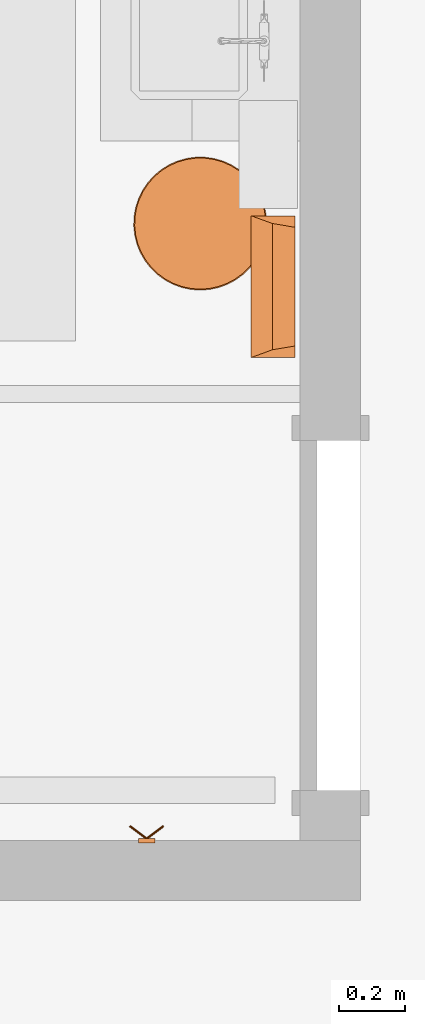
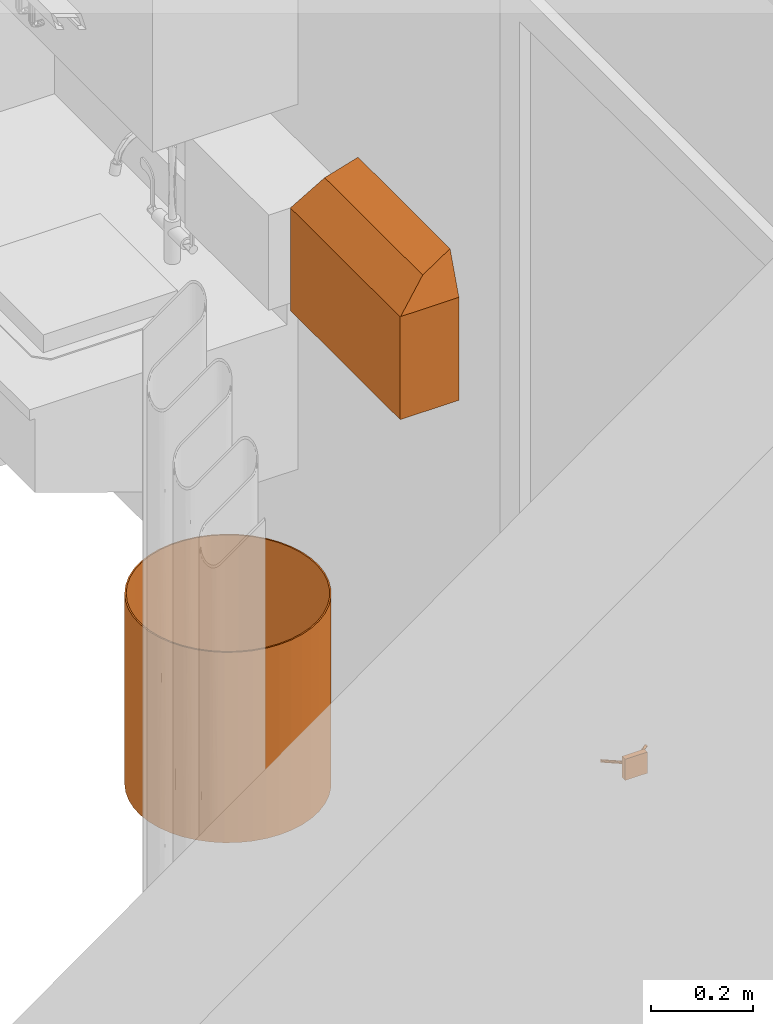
# One storey, part 111 of 142: 3 proxies.
"""IFC2X3 building model written with IfcOpenShell, lengths in feet."""

import ifcopenshell
import ifcopenshell.guid

model = None  # the IFC model being written
_history = None  # IfcOwnerHistory: only IFC2X3 demands one
_inside = {}  # id of a spatial element -> (the spatial element, [elements in it])
_under = {}  # id of a project, library or spatial element -> (it, [spatial elements below it])
_declared = {}  # id of a project -> (the project, [libraries it declares])
_typed = {}  # id of a type object -> (the type object, [elements of that type])
_made_of = {}  # id of a material, layer set ... -> (it, [elements and type objects made of it])


def new_model(schema):
    """Start an empty IFC model of exactly this schema.

    Asked for "IFC4X3", IfcOpenShell would pick the latest addendum, in which some entities
    have other attributes; the version numbers below select the first issue.
    IFC2X3 requires an IfcOwnerHistory on every rooted entity: one is made here for all.
    """
    global model, _history
    if schema == "IFC4X3":
        model = ifcopenshell.file(schema_version=(4, 3, 0, 0))
    else:
        model = ifcopenshell.file(schema=schema)
    _inside.clear()
    _under.clear()
    _declared.clear()
    _typed.clear()
    _made_of.clear()
    _history = None
    if model.schema == "IFC2X3":
        org = make("IfcOrganization", Name="unknown")
        user = make(
            "IfcPersonAndOrganization",
            ThePerson=make("IfcPerson", FamilyName="unknown"),
            TheOrganization=org,
        )
        app = make(
            "IfcApplication",
            ApplicationDeveloper=org,
            Version="unknown",
            ApplicationFullName="unknown",
            ApplicationIdentifier="unknown",
        )
        _history = make(
            "IfcOwnerHistory",
            OwningUser=user,
            OwningApplication=app,
            ChangeAction="ADDED",
            CreationDate=0,
        )
    return model


def make(cls, **values):
    """One entity of the class cls with the attributes given. An attribute that is None is left unset."""
    return model.create_entity(
        cls, **{name: value for name, value in values.items() if value is not None}
    )


def entity(cls, *values):
    """Any entity or typed value of the class cls, its attributes in the order of the schema. None: left unset."""
    e = model.create_entity(cls)
    for i, value in enumerate(values):
        if value is not None:
            e[i] = value
    return e


def rooted(cls, **values):
    """An entity with a GlobalId (a new one), such as an element, a storey or a relation."""
    return make(cls, GlobalId=ifcopenshell.guid.new(), OwnerHistory=_history, **values)


def si_unit(unit_type, name, prefix=None):
    """IfcSIUnit, for example si_unit("LENGTHUNIT", "METRE", prefix="MILLI")."""
    return make("IfcSIUnit", UnitType=unit_type, Prefix=prefix, Name=name)


def converted_unit(unit_type, name, factor, base, dimensions=None, offset=None):
    """IfcConversionBasedUnit, such as the inch: factor (a typed value) times the base unit."""
    return make(
        "IfcConversionBasedUnit"
        if offset is None
        else "IfcConversionBasedUnitWithOffset",
        ConversionOffset=offset,
        Dimensions=None
        if dimensions is None
        else entity("IfcDimensionalExponents", *dimensions),
        UnitType=unit_type,
        Name=name,
        ConversionFactor=make(
            "IfcMeasureWithUnit", ValueComponent=factor, UnitComponent=base
        ),
    )


def derived_unit(unit_type, elements):
    """IfcDerivedUnit: a product of units, each with its exponent."""
    return make(
        "IfcDerivedUnit",
        Elements=[
            make("IfcDerivedUnitElement", Unit=unit, Exponent=power)
            for unit, power in elements
        ],
        UnitType=unit_type,
    )


def assignment(units):
    """IfcUnitAssignment: the units of a project."""
    return None if units is None else make("IfcUnitAssignment", Units=units)


def point(xyz):
    """IfcCartesianPoint."""
    return None if xyz is None else make("IfcCartesianPoint", Coordinates=xyz)


def direction(xyz):
    """IfcDirection."""
    return None if xyz is None else make("IfcDirection", DirectionRatios=xyz)


def frame(location, z_axis=None, x_axis=None):
    """IfcAxis2Placement3D, a coordinate frame: its origin and axes. An axis left out is left unset."""
    return make(
        "IfcAxis2Placement3D",
        Location=point(location),
        Axis=direction(z_axis),
        RefDirection=direction(x_axis),
    )


def frame_2d(location, x_axis=None):
    """IfcAxis2Placement2D, a coordinate frame in the plane: its origin and x axis."""
    return make(
        "IfcAxis2Placement2D", Location=point(location), RefDirection=direction(x_axis)
    )


def origin():
    """The frame at (0, 0, 0) with its axes left unset."""
    return frame((0.0, 0.0, 0.0))


def origin_2d_with_axis():
    """The frame at (0, 0) in the plane with the x axis (1, 0) written out."""
    return frame_2d((0.0, 0.0), x_axis=(1.0, 0.0))


def place(relative_to, where):
    """IfcLocalPlacement: puts the frame where relative to a parent placement (None: the world)."""
    return make(
        "IfcLocalPlacement", PlacementRelTo=relative_to, RelativePlacement=where
    )


def context(
    kind, dimensions, precision=None, world=None, true_north=None, identifier=None
):
    """IfcGeometricRepresentationContext, for example the 3D "Model" context."""
    return make(
        "IfcGeometricRepresentationContext",
        ContextIdentifier=identifier,
        ContextType=kind,
        CoordinateSpaceDimension=dimensions,
        Precision=precision,
        WorldCoordinateSystem=world,
        TrueNorth=true_north,
    )


def subcontext(parent, identifier, kind, view, scale=None):
    """IfcGeometricRepresentationSubContext, for example "Body" below "Model"."""
    return make(
        "IfcGeometricRepresentationSubContext",
        ContextIdentifier=identifier,
        ContextType=kind,
        ParentContext=parent,
        TargetScale=scale,
        TargetView=view,
    )


def project(units=None, contexts=None):
    """IfcProject with its units and contexts."""
    return rooted(
        "IfcProject",
        Name="project",
        RepresentationContexts=contexts,
        UnitsInContext=assignment(units),
    )


def spatial(cls, under=None, at=None, **own):
    """A site, building, storey or space (cls), placed at a placement, below another one or the project."""
    s = rooted(cls, ObjectPlacement=at, **own)
    if under is not None:
        _under.setdefault(under.id(), (under, []))[1].append(s)
    return s


def profile(cls, at=None, kind="AREA", **sizes):
    """A parametric profile (cls). Its sizes go by their IFC names, for example OverallWidth=200.0."""
    return make(cls, ProfileType=kind, Position=at, **sizes)


def rectangle(**sizes):
    """IfcRectangleProfileDef."""
    return profile("IfcRectangleProfileDef", **sizes)


def circle(**sizes):
    """IfcCircleProfileDef."""
    return profile("IfcCircleProfileDef", **sizes)


def hollow_circle(**sizes):
    """IfcCircleHollowProfileDef."""
    return profile("IfcCircleHollowProfileDef", **sizes)


def extrude(swept, where, along, depth):
    """IfcExtrudedAreaSolid: the profile swept, set in the frame where, extruded along a direction by depth."""
    return make(
        "IfcExtrudedAreaSolid",
        SweptArea=swept,
        Position=where,
        ExtrudedDirection=direction(along),
        Depth=depth,
    )


def faces_of(points, faces, orient=None, outer=None):
    """IfcFace entities. A face is a list of loops; a loop is a list of indices into points, from 0.

    orient and outer hold one flag for each loop. By default every Orientation is true, the
    first loop of a face is its IfcFaceOuterBound and the others are IfcFaceBound.
    """
    made = []
    for i, loops in enumerate(faces):
        bounds = []
        for j, loop in enumerate(loops):
            is_outer = j == 0 if outer is None else outer[i][j]
            bounds.append(
                make(
                    "IfcFaceOuterBound" if is_outer else "IfcFaceBound",
                    Bound=make("IfcPolyLoop", Polygon=[points[k] for k in loop]),
                    Orientation=True if orient is None else orient[i][j],
                )
            )
        made.append(make("IfcFace", Bounds=bounds))
    return made


def faceted_brep(points, faces, orient=None, outer=None, voids=None):
    """IfcFacetedBrep: a solid bounded by flat faces; with voids (closed shells), ...WithVoids."""
    shared = [point(p) for p in points]
    hull = make("IfcClosedShell", CfsFaces=faces_of(shared, faces, orient, outer))
    if voids is None:
        return make("IfcFacetedBrep", Outer=hull)
    return make(
        "IfcFacetedBrepWithVoids",
        Outer=hull,
        Voids=[
            make(cls, CfsFaces=faces_of(shared, fs, o, b)) for cls, fs, o, b in voids
        ],
    )


def shape(context_of_items, identifier, shape_type, items):
    """IfcShapeRepresentation: the items that make up one representation, for example the "Body"."""
    return make(
        "IfcShapeRepresentation",
        ContextOfItems=context_of_items,
        RepresentationIdentifier=identifier,
        RepresentationType=shape_type,
        Items=items,
    )


def source(mapping_origin, context_of_items, identifier, shape_type, items):
    """IfcRepresentationMap: a shape defined once, which mapped items show again and again."""
    return make(
        "IfcRepresentationMap",
        MappingOrigin=mapping_origin,
        MappedRepresentation=shape(context_of_items, identifier, shape_type, items),
    )


def transform(
    local_origin,
    x_axis=None,
    y_axis=None,
    z_axis=None,
    scale=None,
    scale2=None,
    scale3=None,
    uniform=True,
):
    """IfcCartesianTransformationOperator3D, or its non-uniform kind. x_axis, y_axis, z_axis: its Axis1, 2, 3."""
    if uniform:
        return make(
            "IfcCartesianTransformationOperator3D",
            Axis1=direction(x_axis),
            Axis2=direction(y_axis),
            LocalOrigin=point(local_origin),
            Scale=scale,
            Axis3=direction(z_axis),
        )
    return make(
        "IfcCartesianTransformationOperator3DnonUniform",
        Axis1=direction(x_axis),
        Axis2=direction(y_axis),
        LocalOrigin=point(local_origin),
        Scale=scale,
        Axis3=direction(z_axis),
        Scale2=scale2,
        Scale3=scale3,
    )


def mapped(mapping_source, mapping_target):
    """IfcMappedItem: shows the shape of a source again, moved by a transform."""
    return make(
        "IfcMappedItem", MappingSource=mapping_source, MappingTarget=mapping_target
    )


def made_of(thing, what):
    """Note that an element or type object is made of a material, layer set ...; save() writes the relation."""
    if what is not None:
        _made_of.setdefault(what.id(), (what, []))[1].append(thing)
    return thing


def type_object(cls, material=None, **own):
    """A type object (cls), such as IfcWallType, which elements share."""
    return made_of(rooted(cls, **own), material)


def type_shapes(of_type, sources):
    """Give a type object the sources (RepresentationMaps) that its elements show as mapped items."""
    of_type.RepresentationMaps = sources


def element(
    cls,
    number,
    at=None,
    inside=None,
    cuts=None,
    type_object=None,
    material=None,
    context=None,
    identifier="Body",
    shape_type=None,
    held_by="IfcProductDefinitionShape",
    body=None,
    shapes=None,
    **own,
):
    """One element of the class cls, such as IfcWall. Its Tag is "e" and its number.

    at: its placement. inside: the storey or other place that contains it. cuts: it is an
    opening in that element (IfcRelVoidsElement). A single representation is given by context,
    identifier, shape_type and body (its items); several are given by shapes. held_by: the class
    of the entity that holds the representations. save() writes the other relations.
    """
    e = rooted(cls, Tag="e%d" % number, ObjectPlacement=at, **own)
    if body is not None:
        shapes = [shape(context, identifier, shape_type, body)]
    if shapes is not None:
        e.Representation = make(held_by, Representations=shapes)
    if inside is not None:
        _inside.setdefault(inside.id(), (inside, []))[1].append(e)
    if cuts is not None:
        rooted(
            "IfcRelVoidsElement", RelatingBuildingElement=cuts, RelatedOpeningElement=e
        )
    if type_object is not None:
        _typed.setdefault(type_object.id(), (type_object, []))[1].append(e)
    return made_of(e, material)


def aggregate(whole, parts):
    """IfcRelAggregates: a whole, such as a stair, and the parts it consists of."""
    return rooted("IfcRelAggregates", RelatingObject=whole, RelatedObjects=parts)


def save(model, path):
    """Write the relations noted so far, then the file.

    IfcRelAggregates (storeys below a building ...), IfcRelContainedInSpatialStructure (elements
    in a storey), IfcRelDefinesByType, IfcRelAssociatesMaterial and IfcRelDeclares: one each for
    every whole, place, type object, material and project.
    """
    for whole, parts in _under.values():
        aggregate(whole, parts)
    for where, things in _inside.values():
        rooted(
            "IfcRelContainedInSpatialStructure",
            RelatedElements=things,
            RelatingStructure=where,
        )
    for kind, things in _typed.values():
        rooted("IfcRelDefinesByType", RelatedObjects=things, RelatingType=kind)
    for what, things in _made_of.values():
        rooted("IfcRelAssociatesMaterial", RelatedObjects=things, RelatingMaterial=what)
    for by, libraries in _declared.values():
        rooted("IfcRelDeclares", RelatingContext=by, RelatedDefinitions=libraries)
    model.write(path)


model = new_model("IFC2X3")

# Units and contexts
model_context = context("Model", 3, precision=0.0001, world=origin(), true_north=direction((6.12303176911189e-17, 1.0)))
body_context = subcontext(model_context, "Body", "Model", "MODEL_VIEW")
ifc_project = project(units=[converted_unit("LENGTHUNIT", "FOOT", entity("IfcRatioMeasure", 0.3048), si_unit("LENGTHUNIT", "METRE"), dimensions=[1, 0, 0, 0, 0, 0, 0]), converted_unit("AREAUNIT", "SQUARE FOOT", entity("IfcRatioMeasure", 0.09290304), si_unit("AREAUNIT", "SQUARE_METRE"), dimensions=[2, 0, 0, 0, 0, 0, 0]), converted_unit("VOLUMEUNIT", "CUBIC FOOT", entity("IfcRatioMeasure", 0.028316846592), si_unit("VOLUMEUNIT", "CUBIC_METRE"), dimensions=[3, 0, 0, 0, 0, 0, 0]), converted_unit("PLANEANGLEUNIT", "DEGREE", entity("IfcRatioMeasure", 0.0174532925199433), si_unit("PLANEANGLEUNIT", "RADIAN"), dimensions=[0, 0, 0, 0, 0, 0, 0]), si_unit("MASSUNIT", "GRAM", prefix="KILO"), derived_unit("MASSDENSITYUNIT", [(si_unit("MASSUNIT", "GRAM", prefix="KILO"), 1), (si_unit("LENGTHUNIT", "METRE"), -3)]), si_unit("TIMEUNIT", "SECOND"), si_unit("FREQUENCYUNIT", "HERTZ"), si_unit("THERMODYNAMICTEMPERATUREUNIT", "DEGREE_CELSIUS"), derived_unit("THERMALTRANSMITTANCEUNIT", [(si_unit("MASSUNIT", "GRAM", prefix="KILO"), 1), (si_unit("THERMODYNAMICTEMPERATUREUNIT", "KELVIN"), -1), (si_unit("TIMEUNIT", "SECOND"), -3)]), derived_unit("VOLUMETRICFLOWRATEUNIT", [(si_unit("LENGTHUNIT", "METRE"), 3), (si_unit("TIMEUNIT", "SECOND"), -1)]), si_unit("ELECTRICCURRENTUNIT", "AMPERE"), si_unit("ELECTRICVOLTAGEUNIT", "VOLT"), si_unit("POWERUNIT", "WATT"), si_unit("FORCEUNIT", "NEWTON"), si_unit("ILLUMINANCEUNIT", "LUX"), si_unit("LUMINOUSFLUXUNIT", "LUMEN"), si_unit("LUMINOUSINTENSITYUNIT", "CANDELA"), derived_unit("USERDEFINED", [(si_unit("MASSUNIT", "GRAM", prefix="KILO"), -1), (si_unit("LENGTHUNIT", "METRE"), -2), (si_unit("TIMEUNIT", "SECOND"), 3), (si_unit("LUMINOUSFLUXUNIT", "LUMEN"), 1)]), derived_unit("LINEARVELOCITYUNIT", [(si_unit("LENGTHUNIT", "METRE"), 1), (si_unit("TIMEUNIT", "SECOND"), -1)]), si_unit("PRESSUREUNIT", "PASCAL"), derived_unit("USERDEFINED", [(si_unit("LENGTHUNIT", "METRE"), -2), (si_unit("MASSUNIT", "GRAM", prefix="KILO"), 1), (si_unit("TIMEUNIT", "SECOND"), -2)])], contexts=[model_context])

# Site, building, storey, space
site_placement = place(None, origin())
site = spatial("IfcSite", under=ifc_project, at=site_placement, Name="Default", CompositionType="ELEMENT")
building_placement = place(site_placement, origin())
building = spatial("IfcBuilding", under=site, at=building_placement, Name="OUTPATIENT / PACT CLINIC (Ch. 265)", CompositionType="ELEMENT")
storey_placement = place(building_placement, origin())
storey = spatial("IfcBuildingStorey", under=building, at=storey_placement, Name="LEVEL 1", CompositionType="ELEMENT", Elevation=0.0)
space_placement = place(storey_placement, origin())
space = spatial("IfcSpace", under=storey, at=space_placement, Name="EXW01", CompositionType="ELEMENT", InteriorOrExteriorSpace="INTERNAL")

# Proxies
building_element_proxy_type_1 = type_object("IfcBuildingElementProxyType", Name="F2000 - Basket, Wastepaper", PredefinedType="NOTDEFINED")
shared_shape_1 = source(origin(), body_context, "Body", "SweptSolid", [
    extrude(circle(Radius=0.666666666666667, at=frame_2d((0.0, -1.07702971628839e-15), x_axis=(1.0, 0.0))), origin(), (0.0, 0.0, 1.0), 0.0104166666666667),
    extrude(hollow_circle(Radius=0.666666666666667, WallThickness=0.0104166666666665, at=frame_2d((0.0, -1.07702971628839e-15), x_axis=(1.0, 0.0))), frame((0.0, 0.0, 0.0104166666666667)), (0.0, 0.0, 1.0), 1.48958333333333),
])
type_shapes(building_element_proxy_type_1, [shared_shape_1])
proxy_1_placement = place(space_placement, frame((446.754977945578, -946.476716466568, 0.0), z_axis=(0.0, 0.0, 1.0), x_axis=(0.0, -1.0, 0.0)))
element("IfcBuildingElementProxy", 1, at=proxy_1_placement, inside=space, type_object=building_element_proxy_type_1, Name="F2000 - Basket, Wastepaper:F2000 - Basket, Wastepaper", ObjectType="F2000 - Basket, Wastepaper", context=body_context, shape_type="MappedRepresentation", body=[
    mapped(shared_shape_1, transform((0.0, 0.0, 0.0), scale=1.0)),
])
building_element_proxy_type_2 = type_object("IfcBuildingElementProxyType", Name="A5108 - Waste Disposal Unit, Sharps 17\"x 13\"", PredefinedType="NOTDEFINED")
shared_shape_2 = source(origin(), body_context, "Body", "Brep", [
    faceted_brep([(0.70833333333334, 0.0, 0.0), (-0.708333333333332, 0.0, 0.0), (-0.708333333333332, 0.437500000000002, 0.0), (0.70833333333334, 0.437500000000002, 0.0), (0.70833333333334, 0.437500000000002, 0.810989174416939), (0.70833333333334, 0.0025667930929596, 0.810989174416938), (0.70833333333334, 0.0, 0.808422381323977), (-0.708333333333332, 0.437500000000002, 0.810989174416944), (-0.594042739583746, 0.437500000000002, 1.125), (0.594042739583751, 0.437500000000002, 1.125), (-0.708333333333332, 0.0, 0.808422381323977), (-0.708333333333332, 0.00256679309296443, 0.810989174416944), (0.632497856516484, 0.210923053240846, 1.01934543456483), (-0.632497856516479, 0.210923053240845, 1.01934543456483)], [[[0, 1, 2, 3]], [[0, 3, 4, 5, 6]], [[3, 2, 7, 8, 9, 4]], [[2, 1, 10, 11, 7]], [[1, 0, 6, 10]], [[10, 6, 5, 12, 13, 11]], [[12, 9, 8, 13]], [[5, 4, 9, 12]], [[8, 7, 11, 13]]]),
])
type_shapes(building_element_proxy_type_2, [shared_shape_2])
proxy_2_placement = place(storey_placement, frame((447.265394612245, -947.107989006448, 3.5), z_axis=(0.0, 0.0, 1.0), x_axis=(0.0, -1.0, 0.0)))
element("IfcBuildingElementProxy", 2, at=proxy_2_placement, inside=storey, type_object=building_element_proxy_type_2, Name="A5108 - Waste Disposal Unit, Sharps1:A5108 - Waste Disposal Unit, Sharps 17\"x 13\"", ObjectType="A5108 - Waste Disposal Unit, Sharps 17\"x 13\"", context=body_context, shape_type="MappedRepresentation", body=[
    mapped(shared_shape_2, transform((0.0, 0.0, 0.0), scale=1.0)),
])
building_element_proxy_type_3 = type_object("IfcBuildingElementProxyType", Name="A5145 - Hook, Garment, Double", PredefinedType="NOTDEFINED")
shared_shape_3 = source(origin(), body_context, "Body", "SweptSolid", [
    extrude(circle(Radius=0.0105952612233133, at=frame_2d((-1.64551454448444e-31, -4.16333634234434e-17), x_axis=(1.0, 0.0))), frame((-0.169086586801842, -0.168481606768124, 0.0833333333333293), z_axis=(0.799999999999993, 0.60000000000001, 0.0), x_axis=(0.60000000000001, -0.799999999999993, 0.0)), (0.0, 0.0, 1.0), 0.211358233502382),
    extrude(circle(Radius=0.0105952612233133, at=frame_2d((5.2041704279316e-19, 2.77555756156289e-17), x_axis=(1.0, 0.0))), frame((0.0, -0.0416666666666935, 0.083333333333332), z_axis=(0.799999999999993, -0.60000000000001, 0.0), x_axis=(-0.60000000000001, -0.799999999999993, 0.0)), (0.0, 0.0, 1.0), 0.211358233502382),
    extrude(rectangle(XDim=0.0416666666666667, YDim=0.166666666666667, at=origin_2d_with_axis()), frame((0.0, -0.0208333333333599, 0.0), z_axis=(0.0, 0.0, 1.0), x_axis=(0.0, 1.0, 0.0)), (0.0, 0.0, 1.0), 0.166666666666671),
])
type_shapes(building_element_proxy_type_3, [shared_shape_3])
proxy_3_placement = place(space_placement, frame((446.218519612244, -952.675697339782, 4.0), z_axis=(0.0, 0.0, 1.0), x_axis=(-1.0, 0.0, 0.0)))
element("IfcBuildingElementProxy", 3, at=proxy_3_placement, inside=space, type_object=building_element_proxy_type_3, Name="A5145 - Hook, Garment, Double:A5145 - Hook, Garment, Double", ObjectType="A5145 - Hook, Garment, Double", context=body_context, shape_type="MappedRepresentation", body=[
    mapped(shared_shape_3, transform((0.0, 0.0, 0.0), scale=1.0)),
])

save(model, "model.ifc")
